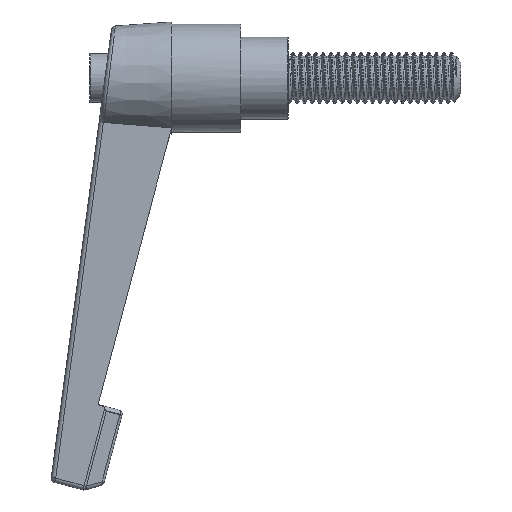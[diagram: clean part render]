
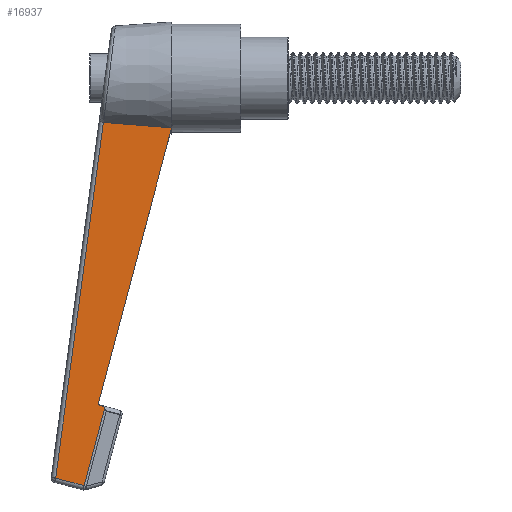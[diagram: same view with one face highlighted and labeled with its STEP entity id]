
A CAD part, left-side view. The second image highlights one B-rep face of the part: STEP entity #16937.
In plain terms, the highlighted planar face has unit normal (-1, 0, 0).
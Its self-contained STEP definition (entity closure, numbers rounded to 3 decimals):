
#216 = CARTESIAN_POINT ( 'NONE',  ( -6., 20.011, -83.007 ) ) ;
#757 = VERTEX_POINT ( 'NONE', #28443 ) ;
#1205 = DIRECTION ( 'NONE',  ( 0., 0.257, -0.966 ) ) ;
#1537 = VECTOR ( 'NONE', #1205, 1000. ) ;
#2610 = LINE ( 'NONE', #30355, #2798 ) ;
#2798 = VECTOR ( 'NONE', #22584, 1000. ) ;
#3111 = ORIENTED_EDGE ( 'NONE', *, *, #27384, .T. ) ;
#3616 = CARTESIAN_POINT ( 'NONE',  ( -6., -1.643, -0.436 ) ) ;
#4054 = DIRECTION ( 'NONE',  ( 0., 0., 1. ) ) ;
#4321 = EDGE_CURVE ( 'NONE', #8522, #757, #2610, .T. ) ;
#4430 = CARTESIAN_POINT ( 'NONE',  ( -6., 17.036, -64.138 ) ) ;
#5045 = EDGE_CURVE ( 'NONE', #24648, #7248, #20500, .T. ) ;
#5115 = LINE ( 'NONE', #216, #22282 ) ;
#5420 =( BOUNDED_CURVE ( )  B_SPLINE_CURVE ( 3, ( #10681, #31176, #12554, #18148 ),
 .UNSPECIFIED., .F., .F. ) 
 B_SPLINE_CURVE_WITH_KNOTS ( ( 4, 4 ),
 ( 3.665, 4.696 ),
 .UNSPECIFIED. ) 
 CURVE ( )  GEOMETRIC_REPRESENTATION_ITEM ( )  RATIONAL_B_SPLINE_CURVE ( ( 1., 0.913, 0.913, 1. ) ) 
 REPRESENTATION_ITEM ( '' )  );
#5634 = ORIENTED_EDGE ( 'NONE', *, *, #10023, .T. ) ;
#6021 = AXIS2_PLACEMENT_3D ( 'NONE', #16921, #8637, #4054 ) ;
#6590 = PLANE ( 'NONE',  #6021 ) ;
#6676 = CARTESIAN_POINT ( 'NONE',  ( -6., 15.821, 1.264 ) ) ;
#7115 = CARTESIAN_POINT ( 'NONE',  ( -6., 20.27, -82.938 ) ) ;
#7248 = VERTEX_POINT ( 'NONE', #29598 ) ;
#7831 = DIRECTION ( 'NONE',  ( 0., -0.966, -0.257 ) ) ;
#8522 = VERTEX_POINT ( 'NONE', #26906 ) ;
#8637 = DIRECTION ( 'NONE',  ( -1., 0., 0. ) ) ;
#10023 = EDGE_CURVE ( 'NONE', #21150, #32768, #32061, .T. ) ;
#10040 = B_SPLINE_CURVE_WITH_KNOTS ( 'NONE', 3,
 ( #24465, #17169, #14120, #6676 ),
 .UNSPECIFIED., .F., .F.,
 ( 4, 4 ),
 ( 0., 0. ),
 .UNSPECIFIED. ) ;
#10681 = CARTESIAN_POINT ( 'NONE',  ( -6., 15.521, -65.058 ) ) ;
#11171 = CARTESIAN_POINT ( 'NONE',  ( -6., 5.259, 0.415 ) ) ;
#12354 = VERTEX_POINT ( 'NONE', #4430 ) ;
#12554 = CARTESIAN_POINT ( 'NONE',  ( -6., 16.342, -64.329 ) ) ;
#13923 = DIRECTION ( 'NONE',  ( 0., -0.257, 0.966 ) ) ;
#14120 = CARTESIAN_POINT ( 'NONE',  ( -6., 15.806, 1.262 ) ) ;
#14372 = CARTESIAN_POINT ( 'NONE',  ( -6., 0., 0. ) ) ;
#14382 = LINE ( 'NONE', #22182, #1537 ) ;
#14530 = CARTESIAN_POINT ( 'NONE',  ( -6., 15.776, 1.26 ) ) ;
#16138 = ORIENTED_EDGE ( 'NONE', *, *, #4321, .T. ) ;
#16921 = CARTESIAN_POINT ( 'NONE',  ( -6., 0., 0. ) ) ;
#16937 = ADVANCED_FACE ( 'NONE', ( #21841 ), #6590, .T. ) ;
#17169 = CARTESIAN_POINT ( 'NONE',  ( -6., 15.791, 1.261 ) ) ;
#18148 = CARTESIAN_POINT ( 'NONE',  ( -6., 17.036, -64.138 ) ) ;
#18290 = EDGE_CURVE ( 'NONE', #757, #21150, #5115, .T. ) ;
#18536 = EDGE_CURVE ( 'NONE', #7248, #12354, #14382, .T. ) ;
#20118 = ORIENTED_EDGE ( 'NONE', *, *, #18536, .F. ) ;
#20500 = B_SPLINE_CURVE_WITH_KNOTS ( 'NONE', 3,
 ( #14530, #24873, #11171, #14372 ),
 .UNSPECIFIED., .F., .F.,
 ( 4, 4 ),
 ( 0.019, 0.035 ),
 .UNSPECIFIED. ) ;
#21150 = VERTEX_POINT ( 'NONE', #7115 ) ;
#21641 = ORIENTED_EDGE ( 'NONE', *, *, #25233, .T. ) ;
#21841 = FACE_OUTER_BOUND ( 'NONE', #30766, .T. ) ;
#22111 = VECTOR ( 'NONE', #13923, 1000. ) ;
#22182 = CARTESIAN_POINT ( 'NONE',  ( -6., 0., 0. ) ) ;
#22282 = VECTOR ( 'NONE', #7831, 1000. ) ;
#22584 = DIRECTION ( 'NONE',  ( 0., 0.133, -0.991 ) ) ;
#24465 = CARTESIAN_POINT ( 'NONE',  ( -6., 15.776, 1.26 ) ) ;
#24648 = VERTEX_POINT ( 'NONE', #28709 ) ;
#24873 = CARTESIAN_POINT ( 'NONE',  ( -6., 10.518, 0.834 ) ) ;
#25233 = EDGE_CURVE ( 'NONE', #32768, #12354, #5420, .T. ) ;
#26740 = ORIENTED_EDGE ( 'NONE', *, *, #18290, .T. ) ;
#26906 = CARTESIAN_POINT ( 'NONE',  ( -6., 15.821, 1.264 ) ) ;
#27384 = EDGE_CURVE ( 'NONE', #24648, #8522, #10040, .T. ) ;
#28443 = CARTESIAN_POINT ( 'NONE',  ( -6., 26.892, -81.179 ) ) ;
#28709 = CARTESIAN_POINT ( 'NONE',  ( -6., 15.776, 1.26 ) ) ;
#28811 = CARTESIAN_POINT ( 'NONE',  ( -6., 15.521, -65.058 ) ) ;
#29598 = CARTESIAN_POINT ( 'NONE',  ( -6., 0., 0. ) ) ;
#30355 = CARTESIAN_POINT ( 'NONE',  ( -6., 27.009, -82.053 ) ) ;
#30375 = ORIENTED_EDGE ( 'NONE', *, *, #5045, .F. ) ;
#30766 = EDGE_LOOP ( 'NONE', ( #21641, #20118, #30375, #3111, #16138, #26740, #5634 ) ) ;
#31176 = CARTESIAN_POINT ( 'NONE',  ( -6., 15.789, -64.664 ) ) ;
#32061 = LINE ( 'NONE', #3616, #22111 ) ;
#32768 = VERTEX_POINT ( 'NONE', #28811 ) ;
